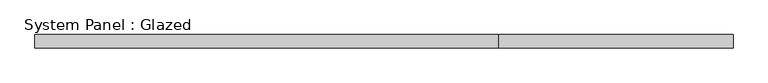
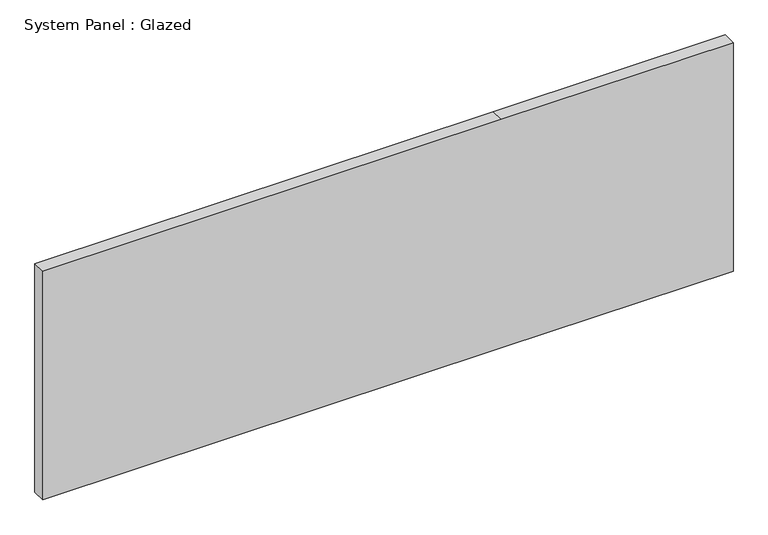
"""IFC4 building model written with IfcOpenShell, lengths in millimetres: plate geometry, System Panel : Glazed."""

from ifc_helpers import new_model, si_unit, frame, origin, place, context, project, spatial, polyline, outline, extrude, source, transform, mapped, element, save


def system_panel_glazed_d8b70277(model_context):
    return source(origin(), model_context, "Body", "SweptSolid", [
        extrude(outline(polyline([(0.0, -643.17875), (0.0, 210.97875), (0.0, 643.17875), (450.0, 643.17875), (450.0, 210.97875), (450.0, -643.17875), (0.0, -643.17875)])), frame((0.0, 24.5, 0.0), z_axis=(0.0, 1.0, 0.0), x_axis=(0.0, 0.0, 1.0)), (0.0, 0.0, 1.0), 25.0),
    ])


if __name__ == "__main__":
    model = new_model("IFC4")
    model_context = context("Model", 3, world=origin())
    ifc_project = project(units=[si_unit("LENGTHUNIT", "METRE", prefix="MILLI")], contexts=[model_context])
    site = spatial("IfcSite", under=ifc_project)
    building = spatial("IfcBuilding", under=site)
    placement = place(None, origin())
    system_panel_glazed_shape = system_panel_glazed_d8b70277(model_context)
    element("IfcPlate", 1, ObjectType="System Panel : Glazed", at=placement, inside=building, context=model_context, shape_type="MappedRepresentation", body=[
        mapped(system_panel_glazed_shape, transform((0.0, 0.0, 0.0), x_axis=(1.0, 0.0, 0.0), y_axis=(0.0, 1.0, 0.0), z_axis=(0.0, 0.0, 1.0))),
    ])
    save(model, "model.ifc")
